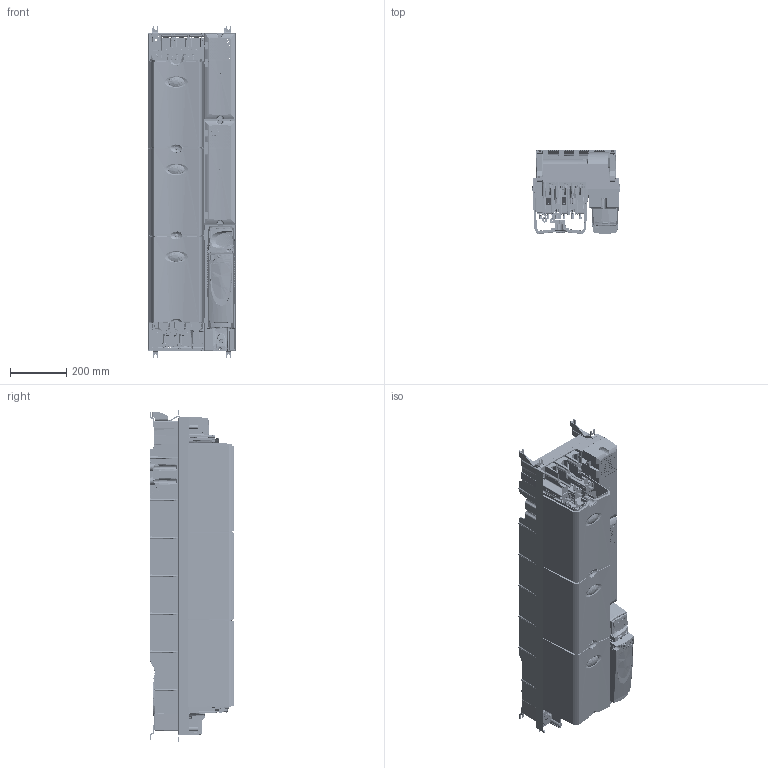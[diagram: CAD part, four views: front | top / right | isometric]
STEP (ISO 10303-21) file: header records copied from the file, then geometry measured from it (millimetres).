
FILE_DESCRIPTION((''),'2;1');
FILE_NAME('SP6_WITHOUT_TERM_COVERS_SW','2007-03-22T',('summne01'),(''),'PRO/ENGINEER BY PARAMETRIC TECHNOLOGY CORPORATION, 2006460','PRO/ENGINEER BY PARAMETRIC TECHNOLOGY CORPORATION, 2006460','');
FILE_SCHEMA(('CONFIG_CONTROL_DESIGN'));
Products named in the file (1): SP6_WITHOUT_TERM_COVERS_SW
Bounding box: 310.14 x 298 x 1179.58 mm (x, y, z)
Surface area: 4078653 mm2 (no closed solid volume)
Topology: 0 solids, 992 shells, 5280 faces, 33490 edges, 28753 vertices
Faces by surface type: plane 2101, cylinder 1602, bspline 775, cone 353, torus 280, revolution 85, extrusion 66, sphere 18
Entity records: 472084 total; most frequent: CARTESIAN_POINT 252245, ORIENTED_EDGE 40961, DIRECTION 34389, EDGE_CURVE 33485, VERTEX_POINT 28756, VECTOR 14962, LINE 14896, B_SPLINE_CURVE_WITH_KNOTS 13423
